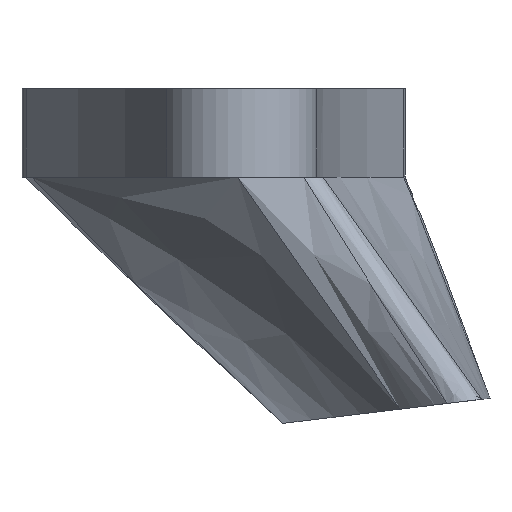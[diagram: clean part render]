
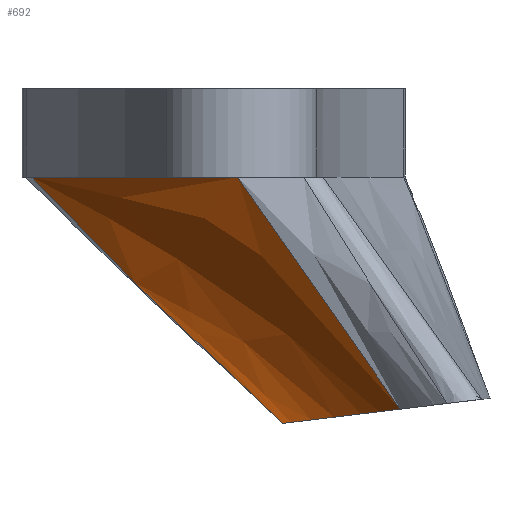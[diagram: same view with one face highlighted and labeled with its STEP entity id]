
A CAD part, front view. The second image highlights one B-rep face of the part: STEP entity #692.
In plain terms, the highlighted free-form (B-spline) face has degree [3, 3] with [5, 4] control points.
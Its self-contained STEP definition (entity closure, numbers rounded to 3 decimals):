
#33=B_SPLINE_SURFACE_WITH_KNOTS('',3,3,((#1049,#1050,#1051,#1052),(#1053,
#1054,#1055,#1056),(#1057,#1058,#1059,#1060),(#1061,#1062,#1063,#1064),
(#1065,#1066,#1067,#1068)),.UNSPECIFIED.,.F.,.F.,.F.,(4,1,4),(4,4),(0.,
0.571,1.),(0.,1.),.UNSPECIFIED.);
#65=FACE_OUTER_BOUND('',#107,.T.);
#107=EDGE_LOOP('',(#484,#485,#486,#487));
#198=LINE('',#1070,#226);
#199=LINE('',#1072,#227);
#226=VECTOR('',#810,15.339);
#227=VECTOR('',#811,10.);
#253=B_SPLINE_CURVE_WITH_KNOTS('',3,(#951,#952,#953,#954,#955,#956),
 .UNSPECIFIED.,.F.,.F.,(4,2,4),(-1.746,-0.852,0.),
 .UNSPECIFIED.);
#262=B_SPLINE_CURVE_WITH_KNOTS('',3,(#1073,#1074,#1075,#1076,#1077,#1078,
#1079,#1080),.UNSPECIFIED.,.F.,.F.,(4,2,1,1,4),(-0.002,0.,
0.79,1.185,1.969),.UNSPECIFIED.);
#292=VERTEX_POINT('',#949);
#293=VERTEX_POINT('',#950);
#307=VERTEX_POINT('',#1069);
#308=VERTEX_POINT('',#1071);
#362=EDGE_CURVE('',#292,#293,#253,.T.);
#377=EDGE_CURVE('',#307,#293,#198,.T.);
#378=EDGE_CURVE('',#308,#307,#199,.T.);
#379=EDGE_CURVE('',#292,#308,#262,.T.);
#484=ORIENTED_EDGE('',*,*,#362,.T.);
#485=ORIENTED_EDGE('',*,*,#377,.F.);
#486=ORIENTED_EDGE('',*,*,#378,.F.);
#487=ORIENTED_EDGE('',*,*,#379,.F.);
#692=ADVANCED_FACE('',(#65),#33,.T.);
#810=DIRECTION('',(0.571,-0.099,-0.815));
#811=DIRECTION('',(0.866,-0.5,0.));
#949=CARTESIAN_POINT('',(-23.997,-0.376,-17.));
#950=CARTESIAN_POINT('',(-18.017,-16.327,-16.274));
#951=CARTESIAN_POINT('Ctrl Pts',(-23.997,-0.376,-17.));
#952=CARTESIAN_POINT('Ctrl Pts',(-23.956,-3.36,-16.995));
#953=CARTESIAN_POINT('Ctrl Pts',(-23.421,-6.331,-16.93));
#954=CARTESIAN_POINT('Ctrl Pts',(-21.365,-11.774,-16.681));
#955=CARTESIAN_POINT('Ctrl Pts',(-19.908,-14.221,-16.504));
#956=CARTESIAN_POINT('Ctrl Pts',(-18.017,-16.327,-16.274));
#1049=CARTESIAN_POINT('Ctrl Pts',(-26.269,-14.899,-4.5));
#1050=CARTESIAN_POINT('Ctrl Pts',(-23.349,-15.404,-8.667));
#1051=CARTESIAN_POINT('Ctrl Pts',(-20.429,-15.91,-12.833));
#1052=CARTESIAN_POINT('Ctrl Pts',(-17.509,-16.415,-17.));
#1053=CARTESIAN_POINT('Ctrl Pts',(-28.381,-13.68,-4.5));
#1054=CARTESIAN_POINT('Ctrl Pts',(-25.526,-13.773,-8.667));
#1055=CARTESIAN_POINT('Ctrl Pts',(-22.669,-13.863,-12.833));
#1056=CARTESIAN_POINT('Ctrl Pts',(-19.815,-13.955,-17.));
#1057=CARTESIAN_POINT('Ctrl Pts',(-32.076,-11.547,-4.5));
#1058=CARTESIAN_POINT('Ctrl Pts',(-29.026,-10.628,-8.667));
#1059=CARTESIAN_POINT('Ctrl Pts',(-25.977,-9.709,-12.833));
#1060=CARTESIAN_POINT('Ctrl Pts',(-22.927,-8.79,-17.));
#1061=CARTESIAN_POINT('Ctrl Pts',(-35.771,-9.414,-4.5));
#1062=CARTESIAN_POINT('Ctrl Pts',(-31.833,-7.244,-8.667));
#1063=CARTESIAN_POINT('Ctrl Pts',(-27.895,-5.074,-12.833));
#1064=CARTESIAN_POINT('Ctrl Pts',(-23.957,-2.904,-17.));
#1065=CARTESIAN_POINT('Ctrl Pts',(-37.354,-8.499,-4.5));
#1066=CARTESIAN_POINT('Ctrl Pts',(-32.902,-5.792,-8.667));
#1067=CARTESIAN_POINT('Ctrl Pts',(-28.449,-3.084,-12.833));
#1068=CARTESIAN_POINT('Ctrl Pts',(-23.997,-0.376,
-17.));
#1069=CARTESIAN_POINT('',(-26.269,-14.899,-4.5));
#1070=CARTESIAN_POINT('',(-26.269,-14.899,-4.5));
#1071=CARTESIAN_POINT('',(-36.707,-8.873,-4.5));
#1072=CARTESIAN_POINT('',(-36.707,-8.873,-4.5));
#1073=CARTESIAN_POINT('Ctrl Pts',(-23.997,-0.376,
-17.));
#1074=CARTESIAN_POINT('Ctrl Pts',(-24.001,-0.379,
-16.996));
#1075=CARTESIAN_POINT('Ctrl Pts',(-24.006,-0.382,
-16.992));
#1076=CARTESIAN_POINT('Ctrl Pts',(-25.754,-1.499,-15.355));
#1077=CARTESIAN_POINT('Ctrl Pts',(-28.357,-3.184,-12.902));
#1078=CARTESIAN_POINT('Ctrl Pts',(-32.613,-6.019,-8.768));
#1079=CARTESIAN_POINT('Ctrl Pts',(-35.103,-7.732,-6.243));
#1080=CARTESIAN_POINT('Ctrl Pts',(-36.707,-8.873,-4.5));
